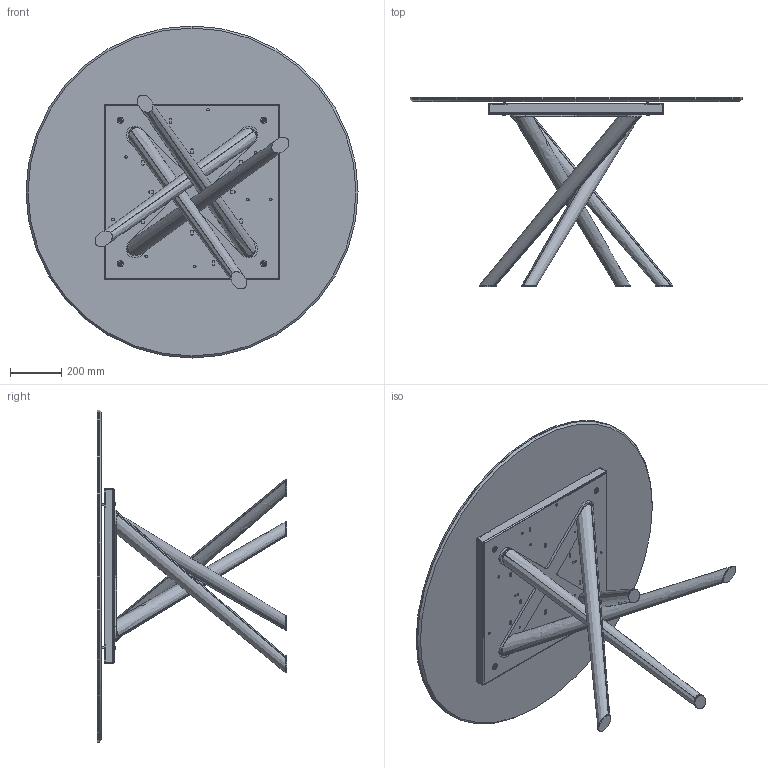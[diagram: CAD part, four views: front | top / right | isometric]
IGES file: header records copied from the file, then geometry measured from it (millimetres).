
Start section: SolidWorks IGES file using analytic representation for surfaces
Global section: file name: Y:\eforma\TECNICO\SOLIDWORKS\E-FORMA\1-TAVOLI\BALY\02 parts\BA05C.IGS; native system: SolidWorks 2022; preprocessor: SolidWorks 2022; author: eforma.tech; date: 240808.083428; units: millimetre
Bounding box: 1300 x 741 x 1300 mm (x, y, z)
Volume: 25784886 mm3; surface area: 8168290.5 mm2
Topology: 24 solids, 24 shells, 691 faces, 1771 edges, 1124 vertices
Faces by surface type: revolution 371, plane 312, bspline 8
